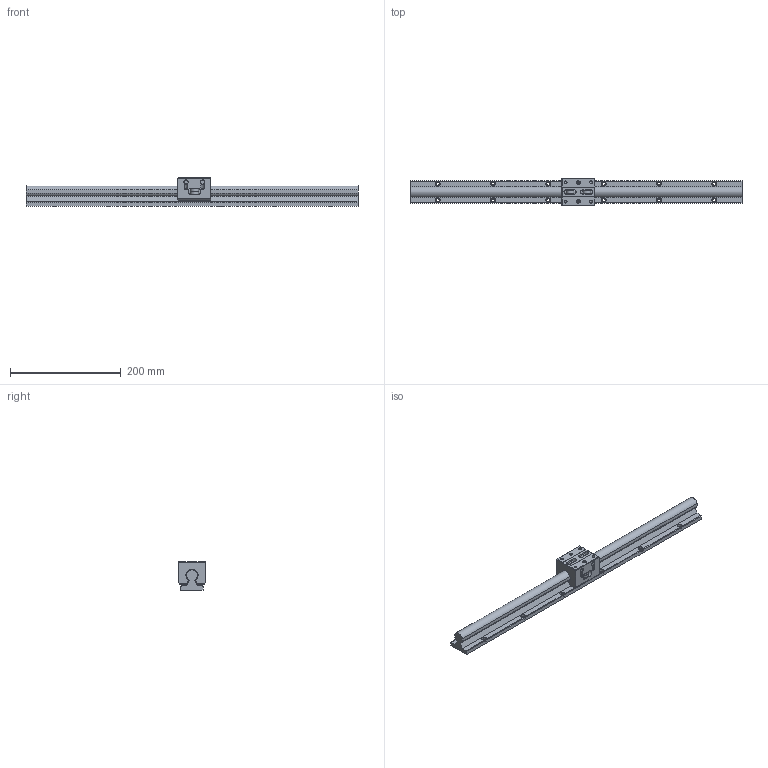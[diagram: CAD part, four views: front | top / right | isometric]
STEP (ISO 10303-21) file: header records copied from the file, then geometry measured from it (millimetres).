
FILE_DESCRIPTION((''),'2;1');
FILE_NAME('D:\製品 (図面)\カタログ用3D\リニアガイド関連\STEP形式\LTG\LTG20.stp','2010-06-02T16:06:07',('Tsuchiya'),(''),'Autodesk Inventor 10','Autodesk Inventor 10','');
FILE_SCHEMA(('AUTOMOTIVE_DESIGN { 1 0 10303 214 1 1 1 1 }'));
Length unit declared in the file: millimetre
Products named in the file (3): LTG20; LTG201; LTG202
Assembly tree (2 placements, depth 2):
  LTG20
    LTG201
    LTG202
Bounding box: 600 x 50 x 52 mm (x, y, z)
Volume: 527198.8 mm3; surface area: 120583.2 mm2
Topology: 2 solids, 2 shells, 303 faces, 747 edges, 484 vertices
Faces by surface type: bspline 140, plane 93, cylinder 46, cone 20, torus 4
Full cylindrical faces by diameter (mm): 4.917 x2, 5 x4, 5.5 x4, 6.5 x4, 8 x5, 14 x3, 15 x2
Entity records: 9845 total; most frequent: CARTESIAN_POINT 3816, ORIENTED_EDGE 1162, DIRECTION 1063, EDGE_CURVE 581, EDGE_LOOP 499, VERTEX_POINT 438, AXIS2_PLACEMENT_3D 404, FACE_OUTER_BOUND 303
